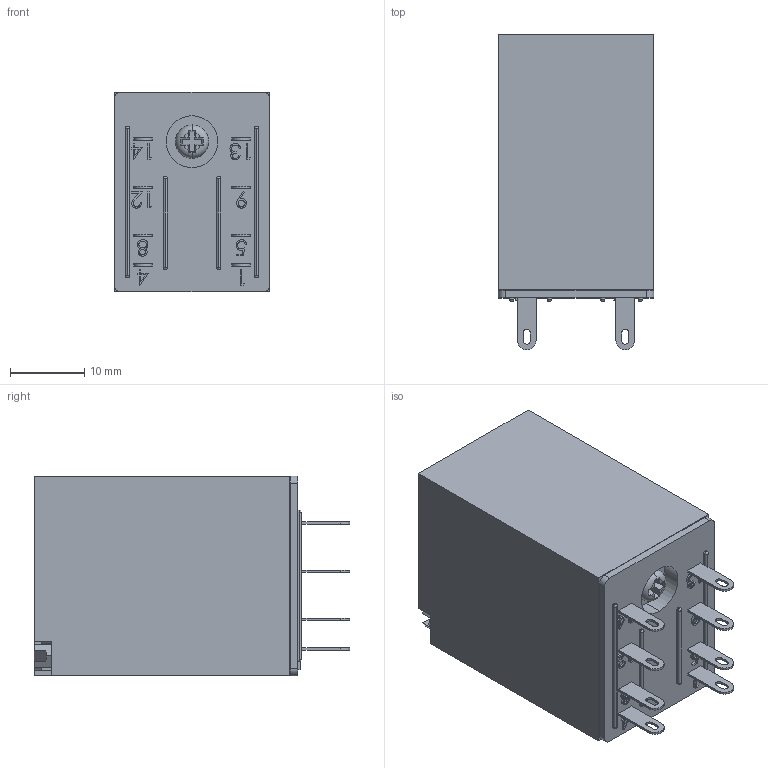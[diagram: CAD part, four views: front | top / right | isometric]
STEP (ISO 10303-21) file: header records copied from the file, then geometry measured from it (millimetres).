
FILE_DESCRIPTION (( 'STEP AP203' ), '1' );
FILE_NAME ('TNA2RC3.STEP', '2019-09-12T17:10:06', ( '' ), ( '' ), 'SwSTEP 2.0', 'SolidWorks 2012', '' );
FILE_SCHEMA (( 'CONFIG_CONTROL_DESIGN' ));
Length unit declared in the file: millimetre
Products named in the file (1): TNA2RC3
Bounding box: 21 x 42.6 x 27 mm (x, y, z)
Volume: 20084.6 mm3; surface area: 5193.8 mm2
Topology: 1 solids, 1 shells, 328 faces, 865 edges, 565 vertices
Faces by surface type: plane 207, cylinder 57, bspline 54, sphere 8, torus 2
Entity records: 13013 total; most frequent: CARTESIAN_POINT 5105, ORIENTED_EDGE 1714, DIRECTION 1408, EDGE_CURVE 857, VECTOR 612, LINE 612, VERTEX_POINT 565, AXIS2_PLACEMENT_3D 398
